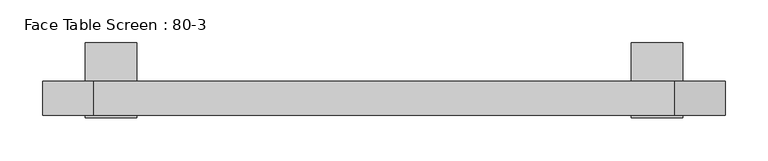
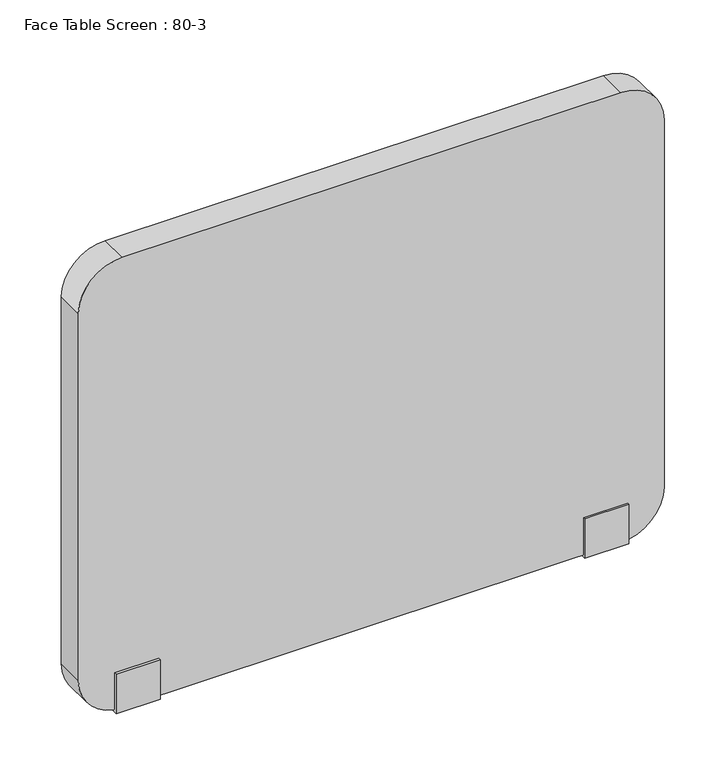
"""IFC4 building model written with IfcOpenShell, lengths in millimetres: furniture geometry, Face Table Screen : 80-3."""

import ifcopenshell
import ifcopenshell.guid

model = None  # the IFC model being written
_history = None  # IfcOwnerHistory: only IFC2X3 demands one
_inside = {}  # id of a spatial element -> (the spatial element, [elements in it])
_under = {}  # id of a project, library or spatial element -> (it, [spatial elements below it])
_declared = {}  # id of a project -> (the project, [libraries it declares])
_typed = {}  # id of a type object -> (the type object, [elements of that type])
_made_of = {}  # id of a material, layer set ... -> (it, [elements and type objects made of it])


def new_model(schema):
    """Start an empty IFC model of exactly this schema.

    Asked for "IFC4X3", IfcOpenShell would pick the latest addendum, in which some entities
    have other attributes; the version numbers below select the first issue.
    IFC2X3 requires an IfcOwnerHistory on every rooted entity: one is made here for all.
    """
    global model, _history
    if schema == "IFC4X3":
        model = ifcopenshell.file(schema_version=(4, 3, 0, 0))
    else:
        model = ifcopenshell.file(schema=schema)
    _inside.clear()
    _under.clear()
    _declared.clear()
    _typed.clear()
    _made_of.clear()
    _history = None
    if model.schema == "IFC2X3":
        org = make("IfcOrganization", Name="unknown")
        user = make(
            "IfcPersonAndOrganization",
            ThePerson=make("IfcPerson", FamilyName="unknown"),
            TheOrganization=org,
        )
        app = make(
            "IfcApplication",
            ApplicationDeveloper=org,
            Version="unknown",
            ApplicationFullName="unknown",
            ApplicationIdentifier="unknown",
        )
        _history = make(
            "IfcOwnerHistory",
            OwningUser=user,
            OwningApplication=app,
            ChangeAction="ADDED",
            CreationDate=0,
        )
    return model


def make(cls, **values):
    """One entity of the class cls with the attributes given. An attribute that is None is left unset."""
    return model.create_entity(
        cls, **{name: value for name, value in values.items() if value is not None}
    )


def rooted(cls, **values):
    """An entity with a GlobalId (a new one), such as an element, a storey or a relation."""
    return make(cls, GlobalId=ifcopenshell.guid.new(), OwnerHistory=_history, **values)


def si_unit(unit_type, name, prefix=None):
    """IfcSIUnit, for example si_unit("LENGTHUNIT", "METRE", prefix="MILLI")."""
    return make("IfcSIUnit", UnitType=unit_type, Prefix=prefix, Name=name)


def assignment(units):
    """IfcUnitAssignment: the units of a project."""
    return None if units is None else make("IfcUnitAssignment", Units=units)


def point(xyz):
    """IfcCartesianPoint."""
    return None if xyz is None else make("IfcCartesianPoint", Coordinates=xyz)


def direction(xyz):
    """IfcDirection."""
    return None if xyz is None else make("IfcDirection", DirectionRatios=xyz)


def frame(location, z_axis=None, x_axis=None):
    """IfcAxis2Placement3D, a coordinate frame: its origin and axes. An axis left out is left unset."""
    return make(
        "IfcAxis2Placement3D",
        Location=point(location),
        Axis=direction(z_axis),
        RefDirection=direction(x_axis),
    )


def frame_2d(location, x_axis=None):
    """IfcAxis2Placement2D, a coordinate frame in the plane: its origin and x axis."""
    return make(
        "IfcAxis2Placement2D", Location=point(location), RefDirection=direction(x_axis)
    )


def origin():
    """The frame at (0, 0, 0) with its axes left unset."""
    return frame((0.0, 0.0, 0.0))


def place(relative_to, where):
    """IfcLocalPlacement: puts the frame where relative to a parent placement (None: the world)."""
    return make(
        "IfcLocalPlacement", PlacementRelTo=relative_to, RelativePlacement=where
    )


def context(
    kind, dimensions, precision=None, world=None, true_north=None, identifier=None
):
    """IfcGeometricRepresentationContext, for example the 3D "Model" context."""
    return make(
        "IfcGeometricRepresentationContext",
        ContextIdentifier=identifier,
        ContextType=kind,
        CoordinateSpaceDimension=dimensions,
        Precision=precision,
        WorldCoordinateSystem=world,
        TrueNorth=true_north,
    )


def project(units=None, contexts=None):
    """IfcProject with its units and contexts."""
    return rooted(
        "IfcProject",
        Name="project",
        RepresentationContexts=contexts,
        UnitsInContext=assignment(units),
    )


def spatial(cls, under=None, at=None, **own):
    """A site, building, storey or space (cls), placed at a placement, below another one or the project."""
    s = rooted(cls, ObjectPlacement=at, **own)
    if under is not None:
        _under.setdefault(under.id(), (under, []))[1].append(s)
    return s


def polyline(points):
    """IfcPolyline through the points."""
    return make("IfcPolyline", Points=[point(p) for p in points])


def circle_curve(where, radius):
    """IfcCircle in the frame where."""
    return make("IfcCircle", Position=where, Radius=radius)


def trimmed(basis, trim1, trim2, sense, master):
    """IfcTrimmedCurve: the piece of a basis curve between two trims."""
    return make(
        "IfcTrimmedCurve",
        BasisCurve=basis,
        Trim1=trim1,
        Trim2=trim2,
        SenseAgreement=sense,
        MasterRepresentation=master,
    )


def segment(curve, same_sense, transition):
    """IfcCompositeCurveSegment."""
    return make(
        "IfcCompositeCurveSegment",
        Transition=transition,
        SameSense=same_sense,
        ParentCurve=curve,
    )


def composite_curve(segments, self_intersect=None):
    """IfcCompositeCurve: segments joined end to end."""
    return make("IfcCompositeCurve", Segments=segments, SelfIntersect=self_intersect)


def outline(outer, holes=None, kind="AREA"):
    """IfcArbitraryClosedProfileDef: a profile drawn as a closed curve; with holes, ...WithVoids."""
    if holes is None:
        return make("IfcArbitraryClosedProfileDef", ProfileType=kind, OuterCurve=outer)
    return make(
        "IfcArbitraryProfileDefWithVoids",
        ProfileType=kind,
        OuterCurve=outer,
        InnerCurves=holes,
    )


def extrude(swept, where, along, depth):
    """IfcExtrudedAreaSolid: the profile swept, set in the frame where, extruded along a direction by depth."""
    return make(
        "IfcExtrudedAreaSolid",
        SweptArea=swept,
        Position=where,
        ExtrudedDirection=direction(along),
        Depth=depth,
    )


def shape(context_of_items, identifier, shape_type, items):
    """IfcShapeRepresentation: the items that make up one representation, for example the "Body"."""
    return make(
        "IfcShapeRepresentation",
        ContextOfItems=context_of_items,
        RepresentationIdentifier=identifier,
        RepresentationType=shape_type,
        Items=items,
    )


def source(mapping_origin, context_of_items, identifier, shape_type, items):
    """IfcRepresentationMap: a shape defined once, which mapped items show again and again."""
    return make(
        "IfcRepresentationMap",
        MappingOrigin=mapping_origin,
        MappedRepresentation=shape(context_of_items, identifier, shape_type, items),
    )


def transform(
    local_origin,
    x_axis=None,
    y_axis=None,
    z_axis=None,
    scale=None,
    scale2=None,
    scale3=None,
    uniform=True,
):
    """IfcCartesianTransformationOperator3D, or its non-uniform kind. x_axis, y_axis, z_axis: its Axis1, 2, 3."""
    if uniform:
        return make(
            "IfcCartesianTransformationOperator3D",
            Axis1=direction(x_axis),
            Axis2=direction(y_axis),
            LocalOrigin=point(local_origin),
            Scale=scale,
            Axis3=direction(z_axis),
        )
    return make(
        "IfcCartesianTransformationOperator3DnonUniform",
        Axis1=direction(x_axis),
        Axis2=direction(y_axis),
        LocalOrigin=point(local_origin),
        Scale=scale,
        Axis3=direction(z_axis),
        Scale2=scale2,
        Scale3=scale3,
    )


def mapped(mapping_source, mapping_target):
    """IfcMappedItem: shows the shape of a source again, moved by a transform."""
    return make(
        "IfcMappedItem", MappingSource=mapping_source, MappingTarget=mapping_target
    )


def made_of(thing, what):
    """Note that an element or type object is made of a material, layer set ...; save() writes the relation."""
    if what is not None:
        _made_of.setdefault(what.id(), (what, []))[1].append(thing)
    return thing


def element(
    cls,
    number,
    at=None,
    inside=None,
    cuts=None,
    type_object=None,
    material=None,
    context=None,
    identifier="Body",
    shape_type=None,
    held_by="IfcProductDefinitionShape",
    body=None,
    shapes=None,
    **own,
):
    """One element of the class cls, such as IfcWall. Its Tag is "e" and its number.

    at: its placement. inside: the storey or other place that contains it. cuts: it is an
    opening in that element (IfcRelVoidsElement). A single representation is given by context,
    identifier, shape_type and body (its items); several are given by shapes. held_by: the class
    of the entity that holds the representations. save() writes the other relations.
    """
    e = rooted(cls, Tag="e%d" % number, ObjectPlacement=at, **own)
    if body is not None:
        shapes = [shape(context, identifier, shape_type, body)]
    if shapes is not None:
        e.Representation = make(held_by, Representations=shapes)
    if inside is not None:
        _inside.setdefault(inside.id(), (inside, []))[1].append(e)
    if cuts is not None:
        rooted(
            "IfcRelVoidsElement", RelatingBuildingElement=cuts, RelatedOpeningElement=e
        )
    if type_object is not None:
        _typed.setdefault(type_object.id(), (type_object, []))[1].append(e)
    return made_of(e, material)


def aggregate(whole, parts):
    """IfcRelAggregates: a whole, such as a stair, and the parts it consists of."""
    return rooted("IfcRelAggregates", RelatingObject=whole, RelatedObjects=parts)


def save(model, path):
    """Write the relations noted so far, then the file.

    IfcRelAggregates (storeys below a building ...), IfcRelContainedInSpatialStructure (elements
    in a storey), IfcRelDefinesByType, IfcRelAssociatesMaterial and IfcRelDeclares: one each for
    every whole, place, type object, material and project.
    """
    for whole, parts in _under.values():
        aggregate(whole, parts)
    for where, things in _inside.values():
        rooted(
            "IfcRelContainedInSpatialStructure",
            RelatedElements=things,
            RelatingStructure=where,
        )
    for kind, things in _typed.values():
        rooted("IfcRelDefinesByType", RelatedObjects=things, RelatingType=kind)
    for what, things in _made_of.values():
        rooted("IfcRelAssociatesMaterial", RelatedObjects=things, RelatingMaterial=what)
    for by, libraries in _declared.values():
        rooted("IfcRelDeclares", RelatingContext=by, RelatedDefinitions=libraries)
    model.write(path)


def face_table_screen_80_3_7f900c10(model_context):
    return source(origin(), model_context, "Body", "SweptSolid", [
        extrude(outline(polyline([(-22.9999947, -156.0), (-22.9999997, -99.0433898), (-20.0, -99.0433898), (-20.0, -153.0), (20.0, -153.0), (20.0, -22.0), (65.0, -22.0), (65.0, -25.0433898), (23.0000062, -25.0433898), (22.9999947, -156.0), (-22.9999947, -156.0)])), frame((290.0, 0.0, 0.0), z_axis=(1.0, 0.0, 0.0), x_axis=(0.0, 1.0, 0.0)), (0.0, 0.0, 1.0), 60.0),
        extrude(outline(polyline([(-22.9999947, -156.0), (-22.9999997, -99.0433898), (-20.0, -99.0433898), (-20.0, -153.0), (20.0, -153.0), (20.0, -22.0), (65.0, -22.0), (65.0, -25.0433898), (23.0000062, -25.0433898), (22.9999947, -156.0), (-22.9999947, -156.0)])), frame((-350.0, 0.0, 0.0), z_axis=(1.0, 0.0, 0.0), x_axis=(0.0, 1.0, 0.0)), (0.0, 0.0, 1.0), 60.0),
        extrude(outline(composite_curve([segment(polyline([(497.0, 340.0), (497.0, -340.0)]), True, "CONTINUOUS"), segment(trimmed(circle_curve(frame_2d((437.0, -340.0)), 60.0), [point((497.0, -340.0))], [point((437.0, -400.0))], False, "CARTESIAN"), True, "CONTINUOUS"), segment(polyline([(437.0, -400.0), (-93.0, -400.0)]), True, "CONTINUOUS"), segment(trimmed(circle_curve(frame_2d((-93.0, -340.0)), 60.0), [point((-93.0, -400.0))], [point((-153.0, -340.0))], False, "CARTESIAN"), True, "CONTINUOUS"), segment(polyline([(-153.0, -340.0), (-153.0, 340.0)]), True, "CONTINUOUS"), segment(trimmed(circle_curve(frame_2d((-93.0, 340.0)), 60.0), [point((-153.0, 340.0))], [point((-93.0, 400.0))], False, "CARTESIAN"), True, "CONTINUOUS"), segment(polyline([(-93.0, 400.0), (437.0, 400.0)]), True, "CONTINUOUS"), segment(trimmed(circle_curve(frame_2d((437.0, 340.0)), 60.0), [point((437.0, 400.0))], [point((497.0, 340.0))], False, "CARTESIAN"), True, "CONTINUOUS")], self_intersect=False)), frame((0.0, -20.0, 0.0), z_axis=(0.0, 1.0, 0.0), x_axis=(0.0, 0.0, 1.0)), (0.0, 0.0, 1.0), 40.0),
    ])


if __name__ == "__main__":
    model = new_model("IFC4")
    model_context = context("Model", 3, world=origin())
    ifc_project = project(units=[si_unit("LENGTHUNIT", "METRE", prefix="MILLI")], contexts=[model_context])
    site = spatial("IfcSite", under=ifc_project)
    building = spatial("IfcBuilding", under=site)
    placement = place(None, origin())
    face_table_screen_80_3_shape = face_table_screen_80_3_7f900c10(model_context)
    element("IfcFurniture", 1, ObjectType="Face Table Screen : 80-3", at=placement, inside=building, context=model_context, shape_type="MappedRepresentation", body=[
        mapped(face_table_screen_80_3_shape, transform((0.0, 0.0, 0.0), x_axis=(1.0, 0.0, 0.0), y_axis=(0.0, 1.0, 0.0), z_axis=(0.0, 0.0, 1.0))),
    ])
    save(model, "model.ifc")
